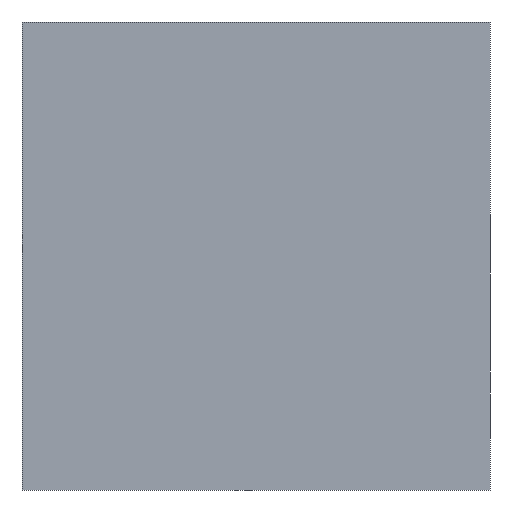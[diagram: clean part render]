
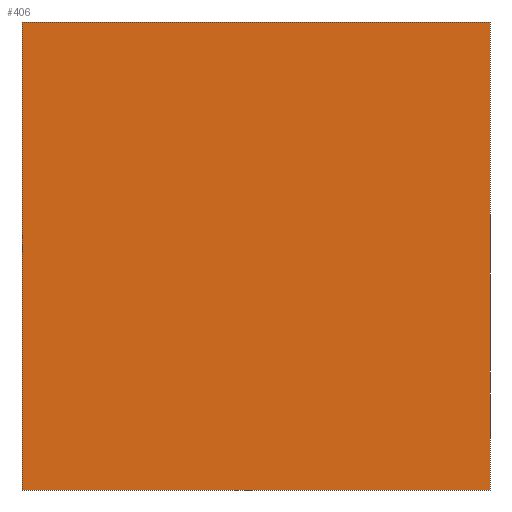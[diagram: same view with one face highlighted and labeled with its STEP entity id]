
A CAD part, front view. The second image highlights one B-rep face of the part: STEP entity #406.
In plain terms, the highlighted planar face has unit normal (0, -1, 0).
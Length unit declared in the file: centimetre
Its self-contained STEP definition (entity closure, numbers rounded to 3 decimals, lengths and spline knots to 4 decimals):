
#28 = VERTEX_POINT ( 'NONE', #493 ) ;
#45 = DIRECTION ( 'NONE',  ( 1., 0., 0. ) ) ;
#66 = CARTESIAN_POINT ( 'NONE',  ( 0., 0., 1000. ) ) ;
#73 = DIRECTION ( 'NONE',  ( 0., 1., 0. ) ) ;
#81 = CARTESIAN_POINT ( 'NONE',  ( 0., 0., 0. ) ) ;
#85 = VERTEX_POINT ( 'NONE', #81 ) ;
#89 = EDGE_CURVE ( 'NONE', #28, #478, #505, .T. ) ;
#101 = CARTESIAN_POINT ( 'NONE',  ( 0., 0., 0. ) ) ;
#136 = VERTEX_POINT ( 'NONE', #246 ) ;
#157 = PLANE ( 'NONE',  #228 ) ;
#161 = DIRECTION ( 'NONE',  ( 0., 0., 1. ) ) ;
#190 = LINE ( 'NONE', #101, #515 ) ;
#195 = EDGE_CURVE ( 'NONE', #136, #28, #376, .T. ) ;
#228 = AXIS2_PLACEMENT_3D ( 'NONE', #66, #73, #161 ) ;
#246 = CARTESIAN_POINT ( 'NONE',  ( 0., 0., 1000. ) ) ;
#261 = DIRECTION ( 'NONE',  ( 1., 0., 0. ) ) ;
#266 = ORIENTED_EDGE ( 'NONE', *, *, #195, .F. ) ;
#271 = VECTOR ( 'NONE', #45, 100. ) ;
#275 = FACE_OUTER_BOUND ( 'NONE', #351, .T. ) ;
#288 = CARTESIAN_POINT ( 'NONE',  ( 0., 0., 1000. ) ) ;
#313 = CARTESIAN_POINT ( 'NONE',  ( 1000., 0., 0. ) ) ;
#346 = ORIENTED_EDGE ( 'NONE', *, *, #377, .T. ) ;
#351 = EDGE_LOOP ( 'NONE', ( #434, #462, #266, #346 ) ) ;
#366 = DIRECTION ( 'NONE',  ( 0., 0., -1. ) ) ;
#374 = VECTOR ( 'NONE', #499, 100. ) ;
#376 = LINE ( 'NONE', #288, #271 ) ;
#377 = EDGE_CURVE ( 'NONE', #136, #85, #403, .T. ) ;
#400 = CARTESIAN_POINT ( 'NONE',  ( 0., 0., 1000. ) ) ;
#403 = LINE ( 'NONE', #400, #546 ) ;
#406 = ADVANCED_FACE ( 'NONE', ( #275 ), #157, .F. ) ;
#434 = ORIENTED_EDGE ( 'NONE', *, *, #481, .T. ) ;
#461 = CARTESIAN_POINT ( 'NONE',  ( 1000., 0., 1000. ) ) ;
#462 = ORIENTED_EDGE ( 'NONE', *, *, #89, .F. ) ;
#478 = VERTEX_POINT ( 'NONE', #313 ) ;
#481 = EDGE_CURVE ( 'NONE', #85, #478, #190, .T. ) ;
#493 = CARTESIAN_POINT ( 'NONE',  ( 1000., 0., 1000. ) ) ;
#499 = DIRECTION ( 'NONE',  ( 0., 0., -1. ) ) ;
#505 = LINE ( 'NONE', #461, #374 ) ;
#515 = VECTOR ( 'NONE', #261, 100. ) ;
#546 = VECTOR ( 'NONE', #366, 100. ) ;
